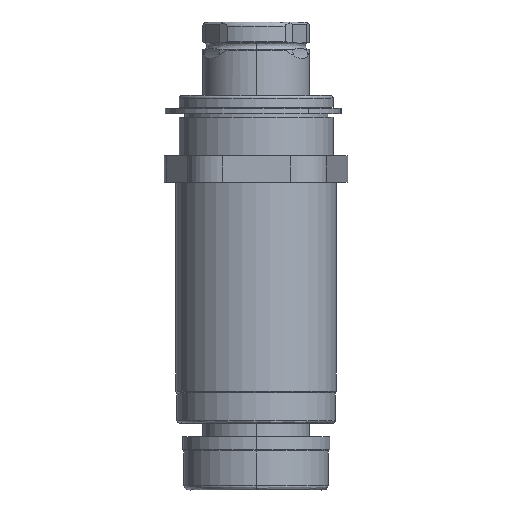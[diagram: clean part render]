
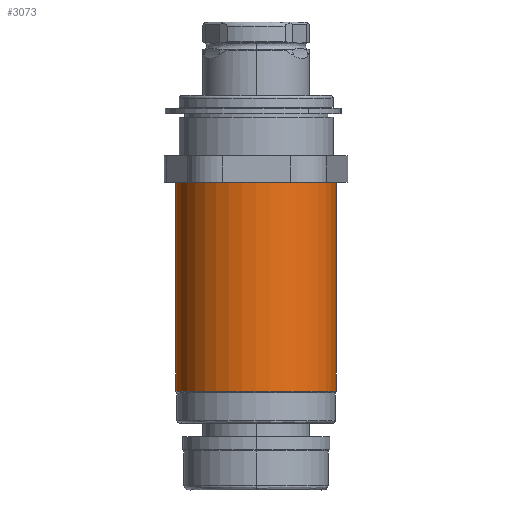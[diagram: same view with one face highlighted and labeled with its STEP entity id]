
A CAD part, left-side view. The second image highlights one B-rep face of the part: STEP entity #3073.
In plain terms, the highlighted cylindrical face has radius 19.042 mm (diameter 38.085 mm), a partial arc.
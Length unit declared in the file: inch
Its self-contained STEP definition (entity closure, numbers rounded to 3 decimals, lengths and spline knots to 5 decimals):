
#91 = ORIENTED_EDGE ( 'NONE', *, *, #2598, .F. ) ;
#109 = ORIENTED_EDGE ( 'NONE', *, *, #3863, .F. ) ;
#130 = CIRCLE ( 'NONE', #4939, 0.7497 ) ;
#153 = CARTESIAN_POINT ( 'NONE',  ( 0., 0., 0.7497 ) ) ;
#217 = VERTEX_POINT ( 'NONE', #153 ) ;
#350 = CIRCLE ( 'NONE', #4035, 0.7497 ) ;
#454 = EDGE_CURVE ( 'NONE', #1731, #217, #2277, .T. ) ;
#457 = ORIENTED_EDGE ( 'NONE', *, *, #5095, .T. ) ;
#505 = CYLINDRICAL_SURFACE ( 'NONE', #3628, 0.7497 ) ;
#573 = DIRECTION ( 'NONE',  ( 0., 0., 1. ) ) ;
#704 = CIRCLE ( 'NONE', #4827, 0.7497 ) ;
#814 = ORIENTED_EDGE ( 'NONE', *, *, #454, .T. ) ;
#1005 = VERTEX_POINT ( 'NONE', #5588 ) ;
#1099 = CARTESIAN_POINT ( 'NONE',  ( 0., -2.25, -0.7497 ) ) ;
#1475 = DIRECTION ( 'NONE',  ( 0., 0., 1. ) ) ;
#1675 = DIRECTION ( 'NONE',  ( 0., 1., 0. ) ) ;
#1731 = VERTEX_POINT ( 'NONE', #3422 ) ;
#1764 = DIRECTION ( 'NONE',  ( 0., 0., 1. ) ) ;
#1855 = CARTESIAN_POINT ( 'NONE',  ( 0., 0., 0. ) ) ;
#1892 = VERTEX_POINT ( 'NONE', #3114 ) ;
#2090 = DIRECTION ( 'NONE',  ( 0., 1., 0. ) ) ;
#2225 = DIRECTION ( 'NONE',  ( 0., -1., 0. ) ) ;
#2277 = LINE ( 'NONE', #4331, #5380 ) ;
#2328 = DIRECTION ( 'NONE',  ( 0., -1., 0. ) ) ;
#2514 = VECTOR ( 'NONE', #4638, 39.37008 ) ;
#2573 = DIRECTION ( 'NONE',  ( 0., 0., 1. ) ) ;
#2598 = EDGE_CURVE ( 'NONE', #1731, #1005, #704, .T. ) ;
#2874 = CARTESIAN_POINT ( 'NONE',  ( 0., 0., -0.7497 ) ) ;
#3011 = FACE_OUTER_BOUND ( 'NONE', #4514, .T. ) ;
#3073 = ADVANCED_FACE ( 'NONE', ( #3011 ), #505, .T. ) ;
#3114 = CARTESIAN_POINT ( 'NONE',  ( 0., -1.95, -0.7497 ) ) ;
#3123 = ORIENTED_EDGE ( 'NONE', *, *, #4940, .F. ) ;
#3422 = CARTESIAN_POINT ( 'NONE',  ( 0., -1.95, 0.7497 ) ) ;
#3555 = CARTESIAN_POINT ( 'NONE',  ( 0., -1.95, 0. ) ) ;
#3628 = AXIS2_PLACEMENT_3D ( 'NONE', #3882, #1675, #2573 ) ;
#3863 = EDGE_CURVE ( 'NONE', #1892, #5296, #5541, .T. ) ;
#3882 = CARTESIAN_POINT ( 'NONE',  ( 0., -2.25, 0. ) ) ;
#4035 = AXIS2_PLACEMENT_3D ( 'NONE', #3555, #2225, #1764 ) ;
#4331 = CARTESIAN_POINT ( 'NONE',  ( 0., -2.25, 0.7497 ) ) ;
#4514 = EDGE_LOOP ( 'NONE', ( #109, #3123, #91, #814, #457 ) ) ;
#4535 = DIRECTION ( 'NONE',  ( 0., -1., 0. ) ) ;
#4638 = DIRECTION ( 'NONE',  ( 0., 1., 0. ) ) ;
#4827 = AXIS2_PLACEMENT_3D ( 'NONE', #5357, #2328, #573 ) ;
#4939 = AXIS2_PLACEMENT_3D ( 'NONE', #1855, #4535, #1475 ) ;
#4940 = EDGE_CURVE ( 'NONE', #1005, #1892, #350, .T. ) ;
#5095 = EDGE_CURVE ( 'NONE', #217, #5296, #130, .T. ) ;
#5296 = VERTEX_POINT ( 'NONE', #2874 ) ;
#5357 = CARTESIAN_POINT ( 'NONE',  ( 0., -1.95, 0. ) ) ;
#5380 = VECTOR ( 'NONE', #2090, 39.37008 ) ;
#5541 = LINE ( 'NONE', #1099, #2514 ) ;
#5588 = CARTESIAN_POINT ( 'NONE',  ( -0.7497, -1.95, 0. ) ) ;
